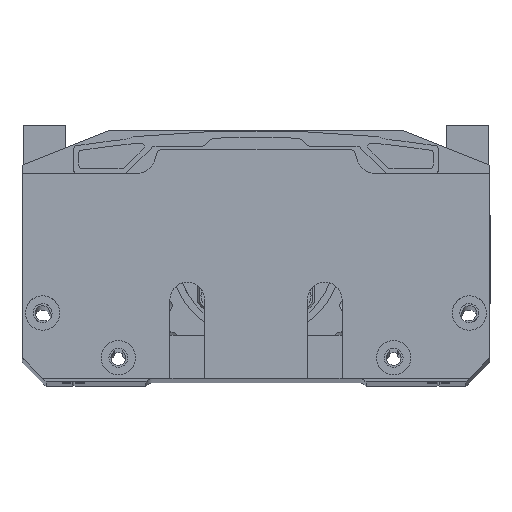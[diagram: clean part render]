
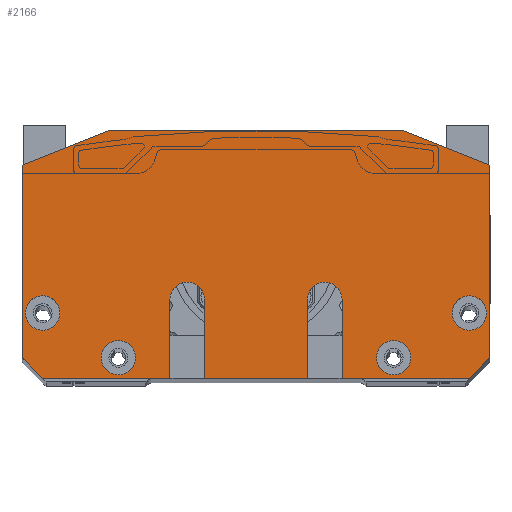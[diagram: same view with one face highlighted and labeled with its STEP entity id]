
A CAD part, top view. The second image highlights one B-rep face of the part: STEP entity #2166.
In plain terms, the highlighted planar face has unit normal (0, 0, 1).
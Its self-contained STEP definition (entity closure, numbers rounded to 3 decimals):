
#2166=ADVANCED_FACE('9',(#3223,#3224,#3225,#3226,#3227),#2811,.T.);
#2811=PLANE('',#18393);
#3223=FACE_BOUND('',#4227,.T.);
#3224=FACE_BOUND('',#4228,.T.);
#3225=FACE_BOUND('',#4229,.T.);
#3226=FACE_BOUND('',#4230,.T.);
#3227=FACE_BOUND('',#4231,.T.);
#4227=EDGE_LOOP('',(#10192,#10193,#10194,#10195,#10196,#10197,#10198,#10199,
#10200,#10201,#10202,#10203,#10204,#10205,#10206,#10207));
#4228=EDGE_LOOP('',(#10208));
#4229=EDGE_LOOP('',(#10209));
#4230=EDGE_LOOP('',(#10210));
#4231=EDGE_LOOP('',(#10211));
#5150=LINE('',#25944,#6422);
#5183=LINE('',#26025,#6455);
#5194=LINE('',#26046,#6466);
#5197=LINE('',#26051,#6469);
#5200=LINE('',#26056,#6472);
#5210=LINE('',#26077,#6482);
#5234=LINE('',#26127,#6506);
#5649=LINE('',#29670,#6921);
#5653=LINE('',#29678,#6925);
#5655=LINE('',#29685,#6927);
#5659=LINE('',#29693,#6931);
#5664=LINE('',#29716,#6936);
#5667=LINE('',#29722,#6939);
#5673=LINE('',#29761,#6945);
#6422=VECTOR('',#20161,1.);
#6455=VECTOR('',#20232,1.);
#6466=VECTOR('',#20251,1.);
#6469=VECTOR('',#20254,1.);
#6472=VECTOR('',#20257,1.);
#6482=VECTOR('',#20275,1.);
#6506=VECTOR('',#20307,1.);
#6921=VECTOR('',#22054,1.);
#6925=VECTOR('',#22060,1.);
#6927=VECTOR('',#22070,1.);
#6931=VECTOR('',#22076,1.);
#6936=VECTOR('',#22101,1.);
#6939=VECTOR('',#22106,1.);
#6945=VECTOR('',#22158,1.);
#10192=ORIENTED_EDGE('',*,*,#15578,.T.);
#10193=ORIENTED_EDGE('',*,*,#15580,.T.);
#10194=ORIENTED_EDGE('',*,*,#15574,.T.);
#10195=ORIENTED_EDGE('',*,*,#14680,.F.);
#10196=ORIENTED_EDGE('',*,*,#15586,.T.);
#10197=ORIENTED_EDGE('',*,*,#15588,.T.);
#10198=ORIENTED_EDGE('',*,*,#15582,.T.);
#10199=ORIENTED_EDGE('',*,*,#14677,.F.);
#10200=ORIENTED_EDGE('',*,*,#14694,.T.);
#10201=ORIENTED_EDGE('',*,*,#14720,.F.);
#10202=ORIENTED_EDGE('',*,*,#15597,.T.);
#10203=ORIENTED_EDGE('',*,*,#15619,.F.);
#10204=ORIENTED_EDGE('',*,*,#15600,.T.);
#10205=ORIENTED_EDGE('',*,*,#14622,.F.);
#10206=ORIENTED_EDGE('',*,*,#14665,.T.);
#10207=ORIENTED_EDGE('',*,*,#14683,.F.);
#10208=ORIENTED_EDGE('',*,*,#15620,.F.);
#10209=ORIENTED_EDGE('',*,*,#15621,.F.);
#10210=ORIENTED_EDGE('',*,*,#15622,.F.);
#10211=ORIENTED_EDGE('',*,*,#15623,.F.);
#12783=VERTEX_POINT('',#25943);
#12784=VERTEX_POINT('',#25945);
#12812=VERTEX_POINT('',#26024);
#12818=VERTEX_POINT('',#26045);
#12819=VERTEX_POINT('',#26047);
#12820=VERTEX_POINT('',#26050);
#12821=VERTEX_POINT('',#26052);
#12822=VERTEX_POINT('',#26055);
#12829=VERTEX_POINT('',#26076);
#12851=VERTEX_POINT('',#26126);
#13378=VERTEX_POINT('',#29671);
#13380=VERTEX_POINT('',#29677);
#13382=VERTEX_POINT('',#29686);
#13384=VERTEX_POINT('',#29692);
#13393=VERTEX_POINT('',#29717);
#13395=VERTEX_POINT('',#29723);
#13405=VERTEX_POINT('',#29763);
#13406=VERTEX_POINT('',#29765);
#13407=VERTEX_POINT('',#29767);
#13408=VERTEX_POINT('',#29769);
#14622=EDGE_CURVE('',#12783,#12784,#5150,.T.);
#14665=EDGE_CURVE('',#12783,#12812,#5183,.T.);
#14677=EDGE_CURVE('',#12818,#12819,#5194,.T.);
#14680=EDGE_CURVE('',#12820,#12821,#5197,.T.);
#14683=EDGE_CURVE('',#12822,#12812,#5200,.T.);
#14694=EDGE_CURVE('',#12818,#12829,#5210,.T.);
#14720=EDGE_CURVE('',#12851,#12829,#5234,.T.);
#15574=EDGE_CURVE('',#13378,#12821,#5649,.T.);
#15578=EDGE_CURVE('',#12822,#13380,#5653,.T.);
#15580=EDGE_CURVE('',#13380,#13378,#16956,.T.);
#15582=EDGE_CURVE('',#13382,#12819,#5655,.T.);
#15586=EDGE_CURVE('',#12820,#13384,#5659,.T.);
#15588=EDGE_CURVE('',#13384,#13382,#16958,.T.);
#15597=EDGE_CURVE('',#12851,#13393,#5664,.T.);
#15600=EDGE_CURVE('',#13395,#12784,#5667,.T.);
#15619=EDGE_CURVE('',#13395,#13393,#5673,.T.);
#15620=EDGE_CURVE('',#13405,#13405,#16976,.T.);
#15621=EDGE_CURVE('',#13406,#13406,#16977,.T.);
#15622=EDGE_CURVE('',#13407,#13407,#16978,.T.);
#15623=EDGE_CURVE('',#13408,#13408,#16979,.T.);
#16956=CIRCLE('',#18352,5.);
#16958=CIRCLE('',#18357,5.);
#16976=CIRCLE('',#18389,5.);
#16977=CIRCLE('',#18390,5.);
#16978=CIRCLE('',#18391,5.);
#16979=CIRCLE('',#18392,5.);
#18352=AXIS2_PLACEMENT_3D('',#29681,#22065,#22066);
#18357=AXIS2_PLACEMENT_3D('',#29696,#22081,#22082);
#18389=AXIS2_PLACEMENT_3D('',#29762,#22159,#22160);
#18390=AXIS2_PLACEMENT_3D('',#29764,#22161,#22162);
#18391=AXIS2_PLACEMENT_3D('',#29766,#22163,#22164);
#18392=AXIS2_PLACEMENT_3D('',#29768,#22165,#22166);
#18393=AXIS2_PLACEMENT_3D('',#29770,#22167,#22168);
#20161=DIRECTION('',(0.,1.,0.));
#20232=DIRECTION('',(0.707,-0.707,0.));
#20251=DIRECTION('',(-1.,0.,0.));
#20254=DIRECTION('',(-1.,0.,0.));
#20257=DIRECTION('',(-1.,0.,0.));
#20275=DIRECTION('',(0.707,0.707,0.));
#20307=DIRECTION('',(0.,-1.,0.));
#22054=DIRECTION('',(0.,-1.,0.));
#22060=DIRECTION('',(0.,1.,0.));
#22065=DIRECTION('',(0.,0.,-1.));
#22066=DIRECTION('',(1.,0.,0.));
#22070=DIRECTION('',(0.,-1.,0.));
#22076=DIRECTION('',(0.,1.,0.));
#22081=DIRECTION('',(0.,0.,-1.));
#22082=DIRECTION('',(-1.,0.,0.));
#22101=DIRECTION('',(-0.928,0.371,0.));
#22106=DIRECTION('',(-0.928,-0.371,0.));
#22158=DIRECTION('',(1.,0.,0.));
#22159=DIRECTION('',(0.,0.,1.));
#22160=DIRECTION('',(1.,0.,0.));
#22161=DIRECTION('',(0.,0.,1.));
#22162=DIRECTION('',(1.,0.,0.));
#22163=DIRECTION('',(0.,0.,1.));
#22164=DIRECTION('',(1.,0.,0.));
#22165=DIRECTION('',(0.,0.,1.));
#22166=DIRECTION('',(1.,0.,0.));
#22167=DIRECTION('',(0.,0.,1.));
#22168=DIRECTION('',(-1.,0.,0.));
#25943=CARTESIAN_POINT('',(-68.,6.,382.));
#25944=CARTESIAN_POINT('',(-68.,0.,382.));
#25945=CARTESIAN_POINT('',(-68.,62.,382.));
#26024=CARTESIAN_POINT('',(-62.,0.,382.));
#26025=CARTESIAN_POINT('',(-49.,-13.,382.));
#26045=CARTESIAN_POINT('',(62.,0.,382.));
#26046=CARTESIAN_POINT('',(68.,0.,382.));
#26047=CARTESIAN_POINT('',(25.,0.,382.));
#26050=CARTESIAN_POINT('',(15.,0.,382.));
#26051=CARTESIAN_POINT('',(68.,0.,382.));
#26052=CARTESIAN_POINT('',(-15.,0.,382.));
#26055=CARTESIAN_POINT('',(-25.,0.,382.));
#26056=CARTESIAN_POINT('',(68.,0.,382.));
#26076=CARTESIAN_POINT('',(68.,6.,382.));
#26077=CARTESIAN_POINT('',(49.,-13.,382.));
#26126=CARTESIAN_POINT('',(68.,62.,382.));
#26127=CARTESIAN_POINT('',(68.,0.,382.));
#29670=CARTESIAN_POINT('',(-15.,23.,382.));
#29671=CARTESIAN_POINT('',(-15.,23.,382.));
#29677=CARTESIAN_POINT('',(-25.,23.,382.));
#29678=CARTESIAN_POINT('',(-25.,23.,382.));
#29681=CARTESIAN_POINT('',(-20.,23.,382.));
#29685=CARTESIAN_POINT('',(25.,23.,382.));
#29686=CARTESIAN_POINT('',(25.,23.,382.));
#29692=CARTESIAN_POINT('',(15.,23.,382.));
#29693=CARTESIAN_POINT('',(15.,23.,382.));
#29696=CARTESIAN_POINT('',(20.,23.,382.));
#29716=CARTESIAN_POINT('',(18.345,81.862,382.));
#29717=CARTESIAN_POINT('',(43.,72.,382.));
#29722=CARTESIAN_POINT('',(-18.345,81.862,382.));
#29723=CARTESIAN_POINT('',(-43.,72.,382.));
#29761=CARTESIAN_POINT('',(68.,72.,382.));
#29762=CARTESIAN_POINT('',(-62.,19.,382.));
#29763=CARTESIAN_POINT('',(-57.,19.,382.));
#29764=CARTESIAN_POINT('',(62.,19.,382.));
#29765=CARTESIAN_POINT('',(67.,19.,382.));
#29766=CARTESIAN_POINT('',(-40.,6.,382.));
#29767=CARTESIAN_POINT('',(-35.,6.,382.));
#29768=CARTESIAN_POINT('',(40.,6.,382.));
#29769=CARTESIAN_POINT('',(45.,6.,382.));
#29770=CARTESIAN_POINT('',(0.,36.,382.));
